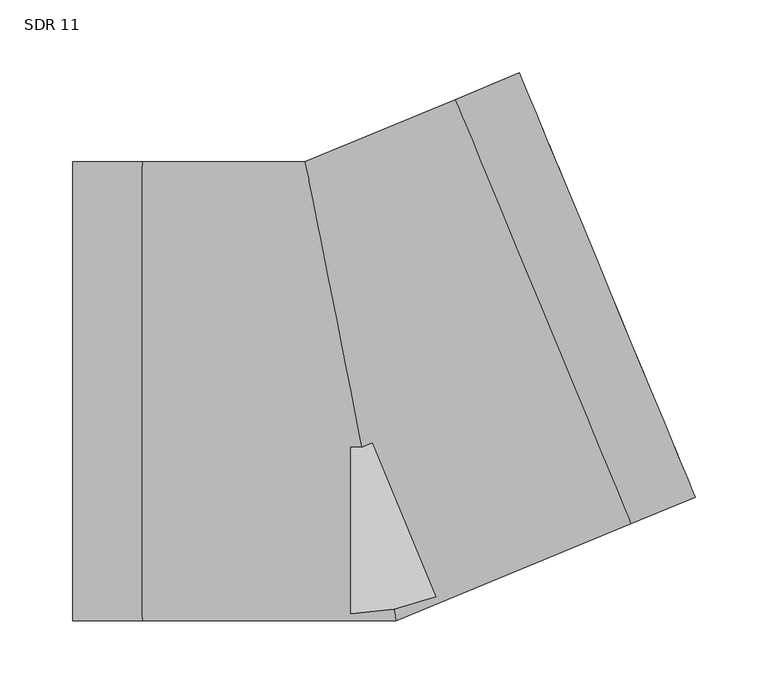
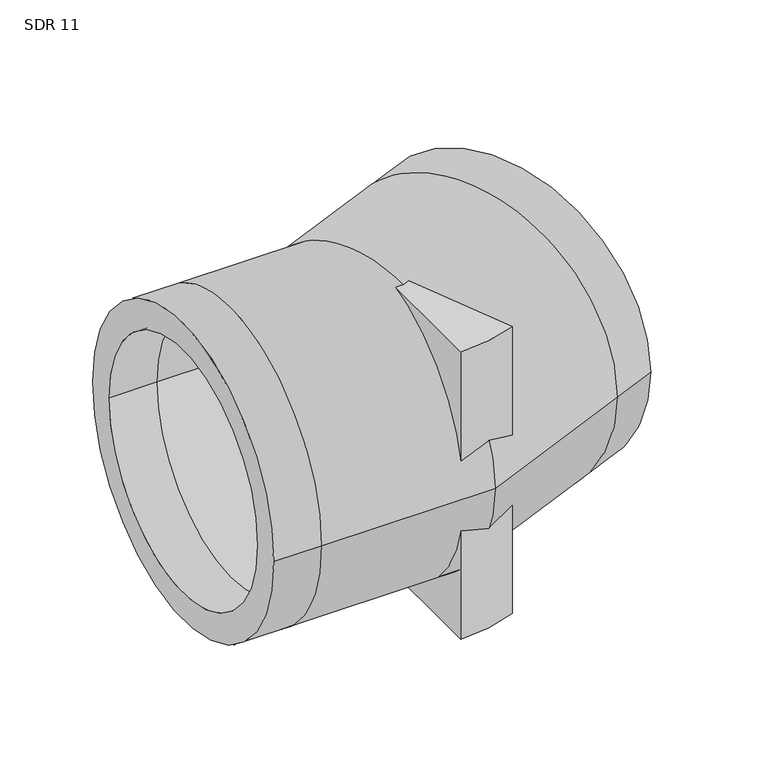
"""IFC4 building model written with IfcOpenShell, lengths in millimetres: pipe fitting geometry, Aquatherm - Elbow Blue BW Segmented : SDR 11."""

from ifc_helpers import new_model, si_unit, point, frame, origin, origin_with_axes, origin_2d, place, context, project, spatial, polyline, circle_curve, ellipse_curve, trimmed, segment, composite_curve, outline, extrude, source, transform, mapped, element, save
from ifc_brep_helpers import plane_surface, cylinder_surface, revolved_surface, advanced_brep


def sdr_11_b8bfa099(model_context):
    return source(origin(), model_context, "Body", "SolidModel", [
        extrude(outline(composite_curve([segment(polyline([(0.0, -152.4), (0.0, 0.0), (58.3209551, -140.7992408)]), True, "CONTINUOUS"), segment(trimmed(circle_curve(origin_2d(), 152.4), [point((58.3209551, -140.7992408))], [point((0.0, -152.4))], False, "CARTESIAN"), True, "CONTINUOUS")], self_intersect=False)), frame((0.0, 0.0, -152.4), z_axis=(0.0, 0.0, 1.0), x_axis=(1.0, 0.0, 0.0)), (0.0, 0.0, 1.0), 152.4),
        extrude(outline(composite_curve([segment(trimmed(circle_curve(origin_2d(), 152.4), [point((58.3209551, -140.7992408))], [point((0.0, -152.4))], False, "CARTESIAN"), True, "CONTINUOUS"), segment(polyline([(0.0, -152.4), (0.0, 0.0), (58.3209551, -140.7992408)]), True, "CONTINUOUS")], self_intersect=False)), origin_with_axes(), (0.0, 0.0, 1.0), 152.4),
        advanced_brep(
        [(-190.5, -157.48, 0.0), (-190.5, 157.48, 0.0), (-190.5, -128.8472727, 0.0), (-190.5, 128.8472727, 0.0), (236.2640379, -72.5913549, 0.0), (115.734064, 218.3937426, 0.0), (225.3067675, -46.1381642, 0.0), (126.6913344, 191.940552, 0.0), (-142.875, -157.48, 0.0), (-142.875, 157.48, 0.0), (-142.875, -128.8472727, 0.0), (-142.875, 128.8472727, 0.0), (31.3247196, -157.48, 0.0), (-31.3247196, 157.48, 0.0), (25.629316, -128.8472727, 0.0), (-25.629316, 128.8472727, 0.0), (192.2642751, -90.8166534, 0.0), (71.7343013, 200.1684442, 0.0), (181.3070048, -64.3634627, 0.0), (82.6915716, 173.7152535, 0.0)],
        [
            (0, 1, circle_curve(frame((-190.5, 0.0, 0.0), z_axis=(-1.0, 0.0, 0.0), x_axis=(0.0, 1.0, 0.0)), 157.48)),
            (1, 0, circle_curve(frame((-190.5, 0.0, 0.0), z_axis=(-1.0, 0.0, 0.0), x_axis=(0.0, 1.0, 0.0)), 157.48)),
            (2, 3, circle_curve(frame((-190.5, 0.0, 0.0), z_axis=(1.0, 0.0, 0.0), x_axis=(0.0, 1.0, 0.0)), 128.8472727)),
            (3, 2, circle_curve(frame((-190.5, 0.0, 0.0), z_axis=(1.0, 0.0, 0.0), x_axis=(0.0, 1.0, 0.0)), 128.8472727)),
            (4, 5, circle_curve(frame((175.9990509, 72.9011939, 0.0), z_axis=(0.9238795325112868, 0.3826834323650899, 0.0), x_axis=(-0.3826834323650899, 0.9238795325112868, 0.0)), 157.48)),
            (5, 4, circle_curve(frame((175.9990509, 72.9011939, 0.0), z_axis=(0.9238795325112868, 0.3826834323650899, 0.0), x_axis=(-0.3826834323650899, 0.9238795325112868, 0.0)), 157.48)),
            (6, 7, circle_curve(frame((175.9990509, 72.9011939, 0.0), z_axis=(-0.9238795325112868, -0.3826834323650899, 0.0), x_axis=(-0.3826834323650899, 0.9238795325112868, 0.0)), 128.8472727)),
            (7, 6, circle_curve(frame((175.9990509, 72.9011939, 0.0), z_axis=(-0.9238795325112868, -0.3826834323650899, 0.0), x_axis=(-0.3826834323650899, 0.9238795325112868, 0.0)), 128.8472727)),
            (0, 8),
            (8, 9, circle_curve(frame((-142.875, 0.0, 0.0), z_axis=(-1.0, 0.0, 0.0), x_axis=(0.0, 1.0, 0.0)), 157.48)),
            (9, 1),
            (9, 8, circle_curve(frame((-142.875, 0.0, 0.0), z_axis=(-1.0, 0.0, 0.0), x_axis=(0.0, 1.0, 0.0)), 157.48)),
            (2, 10),
            (10, 11, circle_curve(frame((-142.875, 0.0, 0.0), z_axis=(1.0, 0.0, 0.0), x_axis=(0.0, 1.0, 0.0)), 128.8472727)),
            (11, 3),
            (11, 10, circle_curve(frame((-142.875, 0.0, 0.0), z_axis=(1.0, 0.0, 0.0), x_axis=(0.0, 1.0, 0.0)), 128.8472727)),
            (8, 12),
            (12, 13, ellipse_curve(frame((0.0, 0.0, 0.0), z_axis=(-0.9807852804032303, -0.19509032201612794, 0.0), x_axis=(-0.19509032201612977, 0.9807852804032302, 0.0)), 160.5652156, 157.48)),
            (13, 9),
            (13, 12, ellipse_curve(frame((0.0, 0.0, 0.0), z_axis=(-0.9807852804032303, -0.19509032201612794, 0.0), x_axis=(-0.19509032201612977, 0.9807852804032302, 0.0)), 160.5652156, 157.48)),
            (10, 14),
            (14, 15, ellipse_curve(frame((0.0, 0.0, 0.0), z_axis=(0.9807852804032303, 0.19509032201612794, 0.0), x_axis=(0.19509032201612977, -0.9807852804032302, 0.0)), 131.37154, 128.8472727)),
            (15, 11),
            (15, 14, ellipse_curve(frame((0.0, 0.0, 0.0), z_axis=(0.9807852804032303, 0.19509032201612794, 0.0), x_axis=(0.19509032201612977, -0.9807852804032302, 0.0)), 131.37154, 128.8472727)),
            (12, 16),
            (16, 17, circle_curve(frame((131.9992882, 54.6758954, 0.0), z_axis=(-0.9238795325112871, -0.3826834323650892, 0.0), x_axis=(-0.3826834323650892, 0.9238795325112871, 0.0)), 157.48)),
            (17, 13),
            (17, 16, circle_curve(frame((131.9992882, 54.6758954, 0.0), z_axis=(-0.9238795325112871, -0.3826834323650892, 0.0), x_axis=(-0.3826834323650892, 0.9238795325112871, 0.0)), 157.48)),
            (14, 18),
            (18, 19, circle_curve(frame((131.9992882, 54.6758954, 0.0), z_axis=(0.9238795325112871, 0.3826834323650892, 0.0), x_axis=(-0.3826834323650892, 0.9238795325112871, 0.0)), 128.8472727)),
            (19, 15),
            (19, 18, circle_curve(frame((131.9992882, 54.6758954, 0.0), z_axis=(0.9238795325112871, 0.3826834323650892, 0.0), x_axis=(-0.3826834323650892, 0.9238795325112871, 0.0)), 128.8472727)),
            (16, 4),
            (5, 17),
            (18, 6),
            (7, 19),
        ],
        [
            plane_surface(frame((-190.5, 0.0, 0.0), z_axis=(-1.0, 0.0, 0.0), x_axis=(0.0, 0.0, 1.0))),
            plane_surface(frame((175.9990509, 72.9011939, 0.0), z_axis=(0.9238795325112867, 0.3826834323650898, 0.0), x_axis=(0.0, 0.0, 1.0))),
            cylinder_surface(frame((-190.5, 0.0, 0.0), z_axis=(-1.0, 0.0, 0.0), x_axis=(0.0, 1.0, 0.0)), 157.48),
            revolved_surface(polyline([(-142.875, 128.8472727, 0.0), (-190.5, 128.8472727, 0.0)]), (-190.5, 0.0, 0.0), (1.0, 0.0, 0.0)),
            cylinder_surface(frame((-142.875, 0.0, 0.0), z_axis=(-1.0, 0.0, 0.0), x_axis=(0.0, 1.0, 0.0)), 157.48),
            revolved_surface(polyline([(25.629316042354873, 128.8472727, 0.0), (-142.875, 128.8472727, 0.0)]), (-142.875, 0.0, 0.0), (1.0, 0.0, 0.0)),
            cylinder_surface(frame((0.0, 0.0, 0.0), z_axis=(-0.9238795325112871, -0.3826834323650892, 0.0), x_axis=(-0.3826834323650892, 0.9238795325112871, 0.0)), 157.48),
            revolved_surface(polyline([(82.69157164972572, 173.71525347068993, 0.0), (-72.9861171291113, 109.23144341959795, 0.0)]), (0.0, 0.0, 0.0), (0.9238795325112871, 0.3826834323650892, 0.0)),
            cylinder_surface(frame((131.9992882, 54.6758954, 0.0), z_axis=(-0.9238795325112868, -0.3826834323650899, 0.0), x_axis=(-0.3826834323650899, 0.9238795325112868, 0.0)), 157.48),
            revolved_surface(polyline([(126.69133441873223, 191.94055195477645, 0.0), (82.69157161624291, 173.71525346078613, 0.0)]), (131.9992882, 54.6758954, 0.0), (0.9238795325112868, 0.3826834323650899, 0.0)),
        ],
        [
            (0, [[1, 2], [3, 4]]),
            (1, [[5, 6], [7, 8]]),
            (2, [[-1, 9, 10, 11]]),
            (2, [[-2, -11, 12, -9]]),
            (3, [[-3, 13, 14, 15]]),
            (3, [[-4, -15, 16, -13]]),
            (4, [[-10, 17, 18, 19]]),
            (4, [[-12, -19, 20, -17]]),
            (5, [[-14, 21, 22, 23]]),
            (5, [[-16, -23, 24, -21]]),
            (6, [[-18, 25, 26, 27]]),
            (6, [[-20, -27, 28, -25]]),
            (7, [[-22, 29, 30, 31]]),
            (7, [[-24, -31, 32, -29]]),
            (8, [[-26, 33, -6, 34]]),
            (8, [[-28, -34, -5, -33]]),
            (9, [[-30, 35, -8, 36]]),
            (9, [[-32, -36, -7, -35]]),
        ],
    ),
    ])


if __name__ == "__main__":
    model = new_model("IFC4")
    model_context = context("Model", 3, world=origin())
    ifc_project = project(units=[si_unit("LENGTHUNIT", "METRE", prefix="MILLI")], contexts=[model_context])
    site = spatial("IfcSite", under=ifc_project)
    building = spatial("IfcBuilding", under=site)
    placement = place(None, origin())
    sdr_11_shape = sdr_11_b8bfa099(model_context)
    element("IfcPipeFitting", 1, ObjectType="Aquatherm - Elbow Blue BW Segmented : SDR 11", at=placement, inside=building, context=model_context, shape_type="MappedRepresentation", body=[
        mapped(sdr_11_shape, transform((0.0, 0.0, 0.0), x_axis=(1.0, 0.0, 0.0), y_axis=(0.0, 1.0, 0.0), z_axis=(0.0, 0.0, 1.0))),
    ])
    save(model, "model.ifc")
